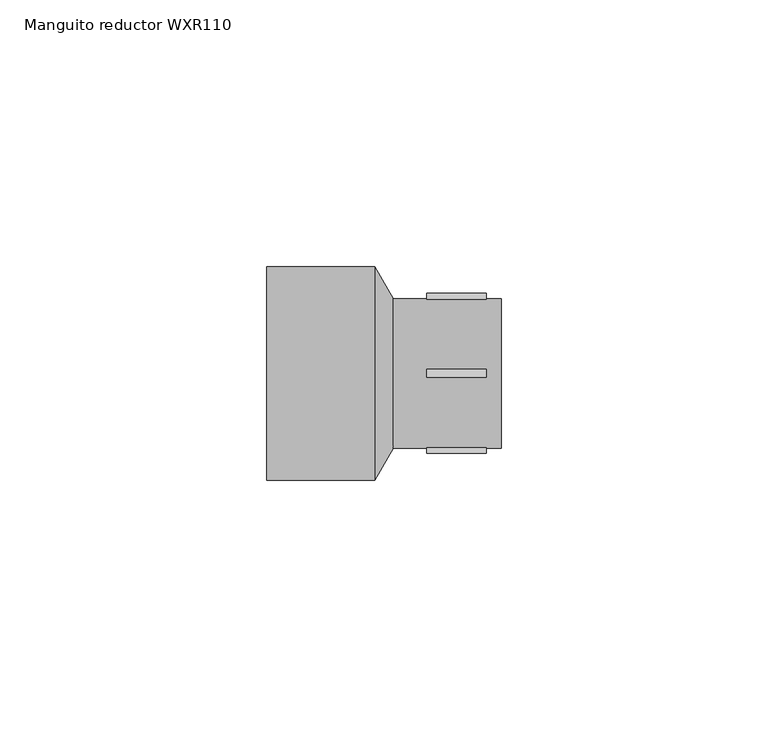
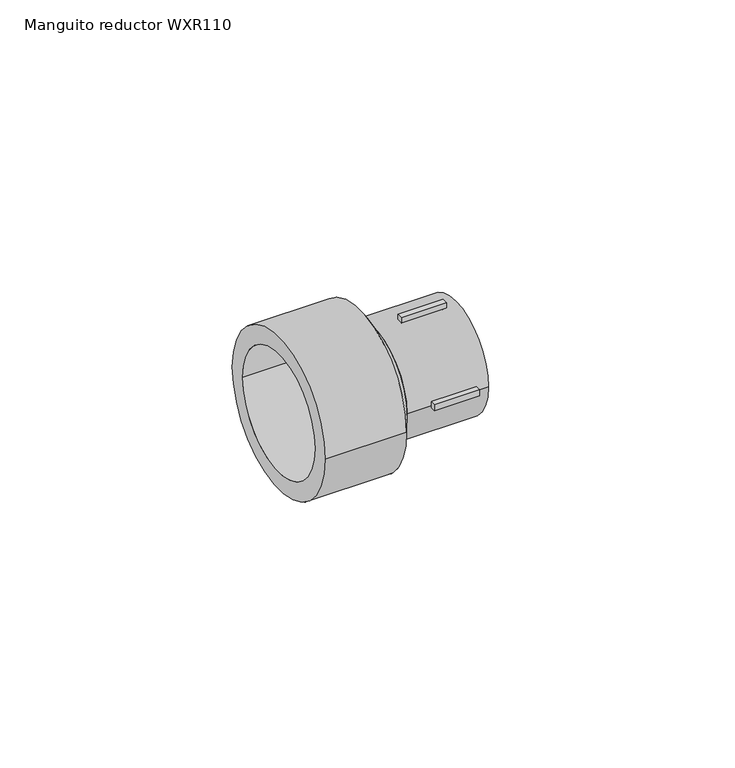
"""IFC4 building model written with IfcOpenShell, lengths in millimetres: pipe fitting geometry, EGB_VASEN_ PPR_Manguito reductor WXR110 : Manguito reductor WXR110."""

from ifc_helpers import new_model, si_unit, point, frame, origin, origin_2d, place, context, project, spatial, polyline, circle_curve, trimmed, segment, composite_curve, outline, extrude, source, transform, mapped, element, save
from ifc_brep_helpers import plane_surface, revolved_surface, advanced_brep


def manguito_reductor_wxr110_39e632c7(model_context):
    return source(origin(), model_context, "Body", "SolidModel", [
        extrude(outline(polyline([(8.0, -0.75), (8.0, 0.75), (19.2, 0.75), (19.2, -0.75), (8.0, -0.75)])), frame((0.0, 0.0, 13.0), z_axis=(0.0, 0.0, 1.0), x_axis=(1.0, 0.0, 0.0)), (0.0, 0.0, 1.0), 2.0),
        extrude(outline(polyline([(8.0, -0.75), (8.0, 0.75), (19.2, 0.75), (19.2, -0.75), (8.0, -0.75)])), frame((0.0, 0.0, -15.0), z_axis=(0.0, 0.0, 1.0), x_axis=(1.0, 0.0, 0.0)), (0.0, 0.0, 1.0), 2.0),
        extrude(outline(polyline([(8.0, 13.0), (8.0, 15.0), (19.2, 15.0), (19.2, 13.0), (8.0, 13.0)])), frame((0.0, 0.0, -0.75), z_axis=(0.0, 0.0, 1.0), x_axis=(1.0, 0.0, 0.0)), (0.0, 0.0, 1.0), 1.5),
        extrude(outline(polyline([(8.0, -15.0), (8.0, -13.0), (19.2, -13.0), (19.2, -15.0), (8.0, -15.0)])), frame((0.0, 0.0, -0.75), z_axis=(0.0, 0.0, 1.0), x_axis=(1.0, 0.0, 0.0)), (0.0, 0.0, 1.0), 1.5),
        extrude(outline(composite_curve([segment(trimmed(circle_curve(origin_2d(), 14.0), [point((-14.0, 0.0))], [point((14.0, 0.0))], False, "CARTESIAN"), True, "CONTINUOUS"), segment(trimmed(circle_curve(origin_2d(), 14.0), [point((14.0, 0.0))], [point((-14.0, 0.0))], False, "CARTESIAN"), True, "CONTINUOUS")], self_intersect=False), holes=[composite_curve([segment(trimmed(circle_curve(origin_2d(), 10.0), [point((-10.0, 0.0))], [point((10.0, 0.0))], True, "CARTESIAN"), True, "CONTINUOUS"), segment(trimmed(circle_curve(origin_2d(), 10.0), [point((10.0, 0.0))], [point((-10.0, 0.0))], True, "CARTESIAN"), True, "CONTINUOUS")], self_intersect=False)]), frame((1.76, 0.0, 0.0), z_axis=(1.0, 0.0, 0.0), x_axis=(0.0, 1.0, 0.0)), (0.0, 0.0, 1.0), 20.24),
        extrude(outline(composite_curve([segment(trimmed(circle_curve(origin_2d(), 20.0), [point((-20.0, 0.0))], [point((20.0, 0.0))], False, "CARTESIAN"), True, "CONTINUOUS"), segment(trimmed(circle_curve(origin_2d(), 20.0), [point((20.0, 0.0))], [point((-20.0, 0.0))], False, "CARTESIAN"), True, "CONTINUOUS")], self_intersect=False), holes=[composite_curve([segment(trimmed(circle_curve(origin_2d(), 15.5), [point((-15.5, 0.0))], [point((15.5, 0.0))], True, "CARTESIAN"), True, "CONTINUOUS"), segment(trimmed(circle_curve(origin_2d(), 15.5), [point((15.5, 0.0))], [point((-15.5, 0.0))], True, "CARTESIAN"), True, "CONTINUOUS")], self_intersect=False)]), frame((-22.0, 0.0, 0.0), z_axis=(1.0, 0.0, 0.0), x_axis=(0.0, 1.0, 0.0)), (0.0, 0.0, 1.0), 20.24),
        advanced_brep(
        [(1.76, -14.0, 0.0), (1.76, 14.0, 0.0), (-1.76, -20.0, 0.0), (-1.76, 20.0, 0.0)],
        [
            (0, 1, circle_curve(frame((1.76, 0.0, 0.0), z_axis=(1.0, 0.0, 0.0), x_axis=(0.0, -1.0, 0.0)), 14.0)),
            (1, 0, circle_curve(frame((1.76, 0.0, 0.0), z_axis=(1.0, 0.0, 0.0), x_axis=(0.0, 1.0, 0.0)), 14.0)),
            (2, 3, circle_curve(frame((-1.76, 0.0, 0.0), z_axis=(-1.0, 0.0, 0.0), x_axis=(0.0, 1.0, 0.0)), 20.0)),
            (3, 2, circle_curve(frame((-1.76, 0.0, 0.0), z_axis=(-1.0, 0.0, 0.0), x_axis=(0.0, -1.0, 0.0)), 20.0)),
            (3, 1),
            (0, 2),
        ],
        [
            plane_surface(frame((1.76, 0.0, 0.0), z_axis=(1.0, 0.0, 0.0), x_axis=(0.0, 0.0, -1.0))),
            plane_surface(frame((-1.76, 0.0, 0.0), z_axis=(-1.0, 0.0, 0.0), x_axis=(0.0, 0.0, -1.0))),
            revolved_surface(polyline([(1.7599999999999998, -13.999999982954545, 0.0), (-1.7599999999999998, -20.0, 0.0)]), (9.9733333, 0.0, 0.0), (-1.0, 0.0, 0.0)),
            revolved_surface(polyline([(1.7599999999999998, 13.999999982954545, 0.0), (-1.7599999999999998, 20.0, 0.0)]), (9.9733333, 0.0, 0.0), (-1.0, 0.0, 0.0)),
        ],
        [
            (0, [[1, 2]]),
            (1, [[3, 4]]),
            (2, [[-4, 5, -1, 6]]),
            (3, [[-3, -6, -2, -5]]),
        ],
    ),
    ])


if __name__ == "__main__":
    model = new_model("IFC4")
    model_context = context("Model", 3, world=origin())
    ifc_project = project(units=[si_unit("LENGTHUNIT", "METRE", prefix="MILLI")], contexts=[model_context])
    site = spatial("IfcSite", under=ifc_project)
    building = spatial("IfcBuilding", under=site)
    placement = place(None, origin())
    manguito_reductor_wxr110_shape = manguito_reductor_wxr110_39e632c7(model_context)
    element("IfcPipeFitting", 1, ObjectType="EGB_VASEN_ PPR_Manguito reductor WXR110 : Manguito reductor WXR110", at=placement, inside=building, context=model_context, shape_type="MappedRepresentation", body=[
        mapped(manguito_reductor_wxr110_shape, transform((0.0, 0.0, 0.0), x_axis=(1.0, 0.0, 0.0), y_axis=(0.0, 1.0, 0.0), z_axis=(0.0, 0.0, 1.0))),
    ])
    save(model, "model.ifc")
